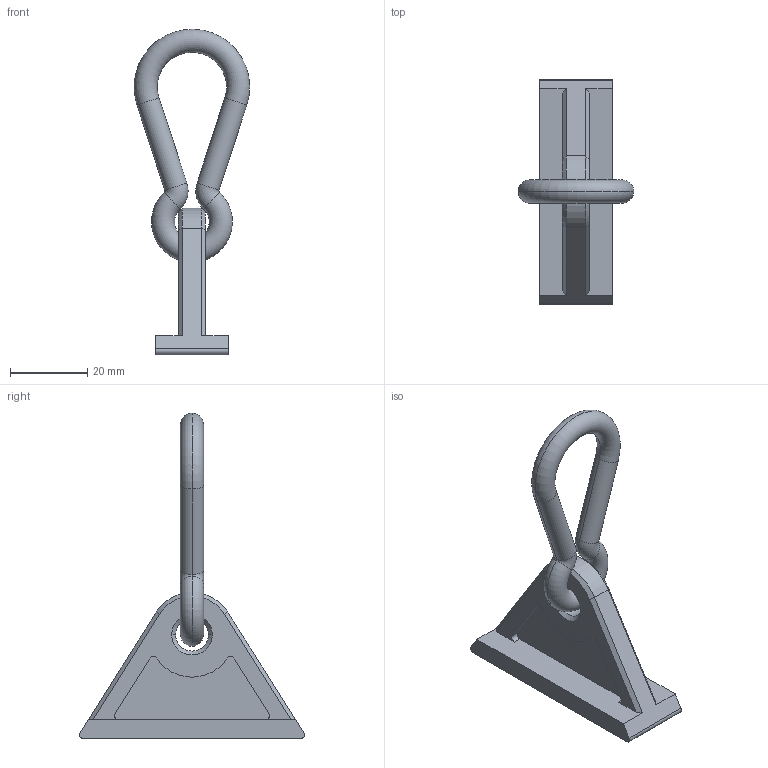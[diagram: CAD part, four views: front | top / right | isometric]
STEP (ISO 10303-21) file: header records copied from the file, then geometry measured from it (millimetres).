
FILE_DESCRIPTION((''),'2;1');
FILE_NAME('ACOS10_ACMOSC_ASM','2002-12-27T',('Lipro doo'),('Lipro d.o.o.'),'PRO/ENGINEER BY PARAMETRIC TECHNOLOGY CORPORATION, 2001150','PRO/ENGINEER BY PARAMETRIC TECHNOLOGY CORPORATION, 2001150','');
FILE_SCHEMA(('CONFIG_CONTROL_DESIGN'));
Length unit declared in the file: millimetre
Products named in the file (3): ACOS10; ACMOSC; ACOS10_ACMOSC_ASM
Assembly tree (2 placements, depth 2):
  ACOS10_ACMOSC_ASM
    ACOS10
    ACMOSC
Bounding box: 29.96 x 58.37 x 84.5 mm (x, y, z)
Volume: 14446.6 mm3; surface area: 8194.2 mm2
Topology: 2 solids, 2 shells, 52 faces, 130 edges, 80 vertices
Faces by surface type: plane 19, cylinder 19, torus 8, cone 6
Entity records: 1757 total; most frequent: CARTESIAN_POINT 397, DIRECTION 284, ORIENTED_EDGE 260, EDGE_CURVE 130, AXIS2_PLACEMENT_3D 105, VERTEX_POINT 80, VECTOR 74, LINE 74
